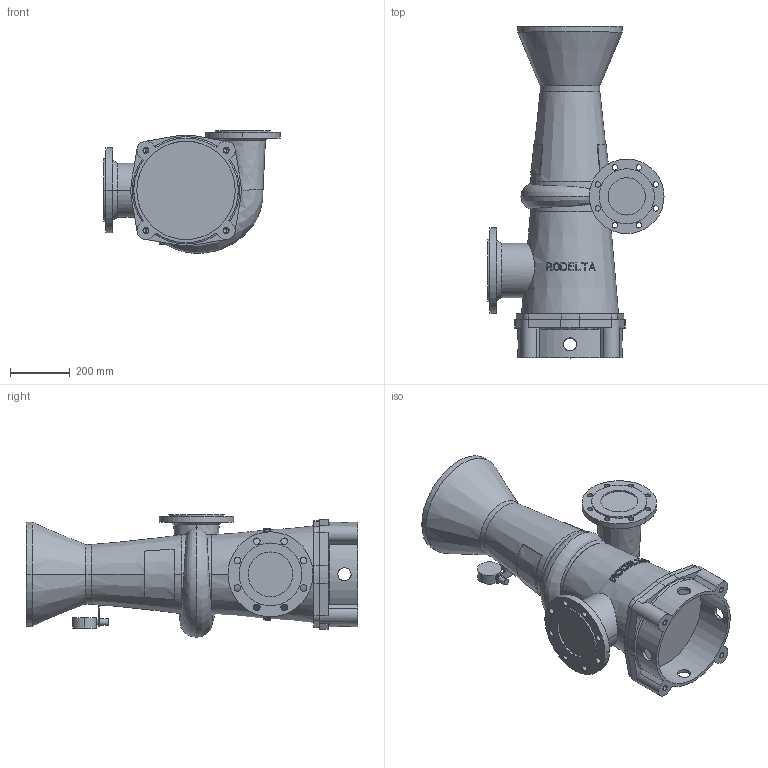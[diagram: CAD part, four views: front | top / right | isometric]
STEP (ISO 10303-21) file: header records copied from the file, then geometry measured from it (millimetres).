
FILE_DESCRIPTION((''),'2;1');
FILE_NAME('NS6210_ASM','2024-07-17T',('Lyritlocal'),(''),'PRO/ENGINEER BY PARAMETRIC TECHNOLOGY CORPORATION, 2016360','PRO/ENGINEER BY PARAMETRIC TECHNOLOGY CORPORATION, 2016360','');
FILE_SCHEMA(('CONFIG_CONTROL_DESIGN'));
Length unit declared in the file: millimetre
Products named in the file (3): 6210_VOET; 6210; NS6210_ASM
Assembly tree (2 placements, depth 2):
  NS6210_ASM
    6210_VOET
    6210
Bounding box: 590 x 1112 x 411.2 mm (x, y, z)
Volume: 73509644.5 mm3; surface area: 2060130 mm2
Topology: 2 solids, 6 shells, 517 faces, 1386 edges, 915 vertices
Faces by surface type: plane 342, cylinder 125, cone 40, bspline 6, torus 4
Entity records: 18499 total; most frequent: CARTESIAN_POINT 5977, ORIENTED_EDGE 2740, DIRECTION 2341, EDGE_CURVE 1378, VERTEX_POINT 915, AXIS2_PLACEMENT_3D 908, EDGE_LOOP 607, VECTOR 525
